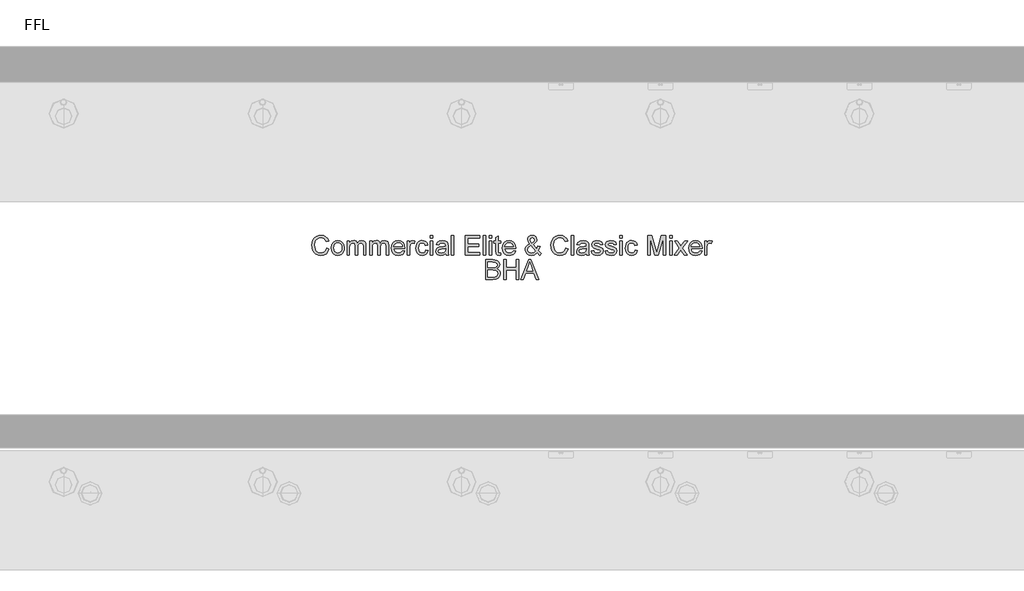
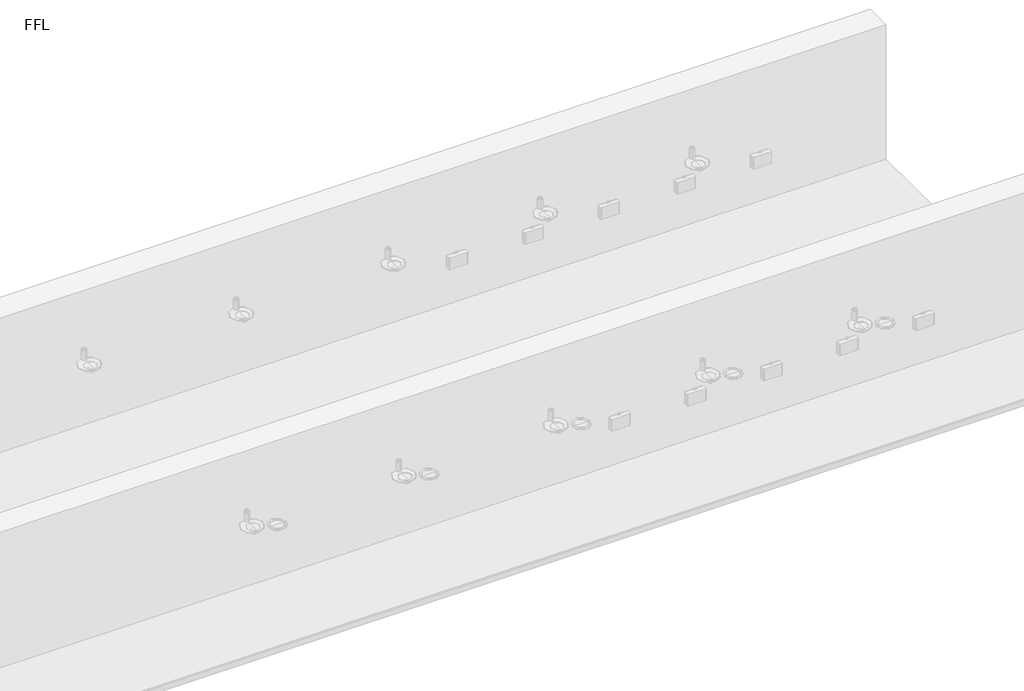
# One storey, part 8 of 13: 1 proxy.
"""IFC4 building model written with IfcOpenShell, lengths in millimetres."""

from ifc_helpers import new_model, si_unit, origin, origin_with_axes, place, context, project, spatial, polyline, outline, extrude, element, save

model = new_model("IFC4")

# Units and contexts
model_context = context("Model", 3, world=origin())
ifc_project = project(units=[si_unit("LENGTHUNIT", "METRE", prefix="MILLI")], contexts=[model_context])

# Site, building, storey
site = spatial("IfcSite", under=ifc_project)
building = spatial("IfcBuilding", under=site)
storey = spatial("IfcBuildingStorey", under=building, Name="FFL", Elevation=0.0)

# Proxy
placement = place(None, origin())
element("IfcBuildingElementProxy", 1, Name="150mm Arial", ObjectType="150mm Arial", at=placement, inside=storey, context=model_context, shape_type="SweptSolid", body=[
    extrude(outline(polyline([(14762.5723994, -1683.6981691), (14781.0339379, -1688.4577845), (14772.5153081, -1709.9707052), (14759.1469187, -1725.6873518), (14741.5868225, -1735.301234), (14720.4930725, -1738.5058614), (14699.0793105, -1736.0809816), (14682.0736014, -1728.8063422), (14669.0387456, -1716.934347), (14659.5375437, -1700.7173999), (14653.7367624, -1681.6518951), (14651.8031687, -1661.2342268), (14653.9891663, -1639.6987701), (14660.5471591, -1621.1020153), (14671.134599, -1606.0344071), (14685.4089379, -1595.0863903), (14702.3380244, -1588.4202244), (14720.8897071, -1586.1981691), (14741.1315941, -1589.0737701), (14757.8668706, -1597.700573), (14770.5726999, -1611.5467268), (14778.7262456, -1630.0803807), (14760.2647071, -1634.4794191), (14753.8644667, -1621.0163783), (14745.1204764, -1611.7811018), (14733.9245629, -1606.4400561), (14720.1685533, -1604.6597076), (14704.3121831, -1606.6338662), (14691.2863417, -1612.5563422), (14681.4020268, -1621.8051403), (14674.970236, -1633.7582653), (14670.2647071, -1661.1981691), (14675.8356206, -1693.0010537), (14682.9570148, -1704.8775561), (14693.1793706, -1713.3195633), (14705.4344788, -1718.3631331), (14718.6541302, -1720.044323), (14734.0642865, -1717.7546595), (14746.9053321, -1710.8856691), (14756.6003441, -1699.5094672), (14762.5723994, -1683.6981691)])), origin_with_axes(), (0.0, 0.0, 1.0), 5.0),
    extrude(outline(polyline([(14799.4954764, -1681.9673999), (14803.4888658, -1655.8165585), (14815.4690341, -1637.4361499), (14830.2707167, -1628.4307412), (14847.9930725, -1625.4289383), (14867.3876038, -1629.0842869), (14882.8788898, -1640.0503326), (14893.0336374, -1657.4616908), (14896.4185533, -1680.4529768), (14894.9221591, -1699.1038182), (14890.4329764, -1713.3015345), (14883.0817143, -1723.9340465), (14872.9990821, -1731.8892749), (14861.0234211, -1736.8517148), (14847.9930725, -1738.5058614), (14828.3641663, -1734.8640345), (14812.8909091, -1723.9385537), (14802.8443345, -1706.1621114), (14799.4954764, -1681.9673999)]), holes=[polyline([(14817.9570148, -1681.9313422), (14820.0934331, -1698.6395754), (14826.5026879, -1710.543121), (14836.1481206, -1717.6690225), (14847.9930725, -1720.044323), (14859.7839379, -1717.6555008), (14869.4113417, -1710.4890345), (14875.8205966, -1698.4277364), (14877.9570148, -1681.3544191), (14875.8070749, -1665.1329648), (14869.3572552, -1653.3916787), (14859.7163297, -1646.2657773), (14847.9930725, -1643.8904768), (14836.1481206, -1646.2567629), (14826.5026879, -1653.355621), (14820.0934331, -1665.2321234), (14817.9570148, -1681.9313422)])]), origin_with_axes(), (0.0, 0.0, 1.0), 5.0),
    extrude(outline(polyline([(14917.1877841, -1736.1981691), (14917.1877841, -1627.7366307), (14935.6493225, -1627.7366307), (14935.6493225, -1645.5851883), (14948.3416302, -1630.9637941), (14966.4065341, -1625.4289383), (14976.6739619, -1626.8396956), (14984.9041302, -1631.0719672), (14995.0723994, -1646.8832653), (15009.4774475, -1630.7925201), (15027.6685533, -1625.4289383), (15041.5462576, -1627.6600081), (15051.8091783, -1634.3532172), (15058.1508249, -1645.6888542), (15060.2647071, -1661.8472076), (15060.2647071, -1736.1981691), (15041.8031687, -1736.1981691), (15041.8031687, -1669.7798999), (15040.0904283, -1654.3652364), (15033.8885052, -1646.7750922), (15023.3416302, -1643.8904768), (15013.3401278, -1645.7384335), (15005.1865821, -1651.2823037), (14999.7644066, -1660.9006932), (14997.9570148, -1674.9722076), (14997.9570148, -1736.1981691), (14979.4954764, -1736.1981691), (14979.4954764, -1667.7246114), (14975.2226398, -1649.839996), (14969.5841182, -1645.3778566), (14961.2142264, -1643.8904768), (14947.548361, -1647.856823), (14938.4618225, -1659.4673999), (14935.6493225, -1681.4986499), (14935.6493225, -1736.1981691), (14917.1877841, -1736.1981691)])), origin_with_axes(), (0.0, 0.0, 1.0), 5.0),
    extrude(outline(polyline([(15087.9570148, -1736.1981691), (15087.9570148, -1627.7366307), (15106.4185533, -1627.7366307), (15106.4185533, -1645.5851883), (15119.110861, -1630.9637941), (15137.1757648, -1625.4289383), (15147.4431927, -1626.8396956), (15155.673361, -1631.0719672), (15165.8416302, -1646.8832653), (15180.2466783, -1630.7925201), (15198.4377841, -1625.4289383), (15212.3154884, -1627.6600081), (15222.5784091, -1634.3532172), (15228.9200557, -1645.6888542), (15231.0339379, -1661.8472076), (15231.0339379, -1736.1981691), (15212.5723994, -1736.1981691), (15212.5723994, -1669.7798999), (15210.8596591, -1654.3652364), (15204.657736, -1646.7750922), (15194.110861, -1643.8904768), (15184.1093586, -1645.7384335), (15175.9558129, -1651.2823037), (15170.5336374, -1660.9006932), (15168.7262456, -1674.9722076), (15168.7262456, -1736.1981691), (15150.2647071, -1736.1981691), (15150.2647071, -1667.7246114), (15145.9918706, -1649.839996), (15140.353349, -1645.3778566), (15131.9834571, -1643.8904768), (15118.3175917, -1647.856823), (15109.2310533, -1659.4673999), (15106.4185533, -1681.4986499), (15106.4185533, -1736.1981691), (15087.9570148, -1736.1981691)])), origin_with_axes(), (0.0, 0.0, 1.0), 5.0),
    extrude(outline(polyline([(15334.6637456, -1703.8904768), (15352.7647071, -1706.1981691), (15346.242772, -1719.8369912), (15335.8356206, -1730.0323037), (15321.7776278, -1736.387472), (15304.3031687, -1738.5058614), (15282.64151, -1734.8505129), (15265.9738417, -1723.8844672), (15255.3458369, -1706.3198638), (15251.8031687, -1682.8688422), (15255.3818946, -1658.6290585), (15266.1180725, -1640.5010537), (15282.5603802, -1629.1969672), (15303.2574956, -1625.4289383), (15323.3100797, -1629.1879528), (15339.3332167, -1640.464996), (15349.8395268, -1658.5569432), (15353.3416302, -1682.7606691), (15353.2334571, -1687.7366307), (15270.2647071, -1687.7366307), (15273.4603201, -1701.5557412), (15280.8836975, -1711.714996), (15291.5973393, -1717.9619912), (15304.6637456, -1720.044323), (15322.7647071, -1716.1861499), (15334.6637456, -1703.8904768)]), holes=[polyline([(15270.2647071, -1669.2750922), (15334.8800917, -1669.2750922), (15332.3830966, -1659.5214864), (15327.4882648, -1652.544323), (15316.7250437, -1646.0539383), (15303.1853802, -1643.8904768), (15290.7409691, -1645.6167388), (15280.4510052, -1650.7955249), (15273.2980605, -1658.8679408), (15270.2647071, -1669.2750922)])]), origin_with_axes(), (0.0, 0.0, 1.0), 5.0),
    extrude(outline(polyline([(15371.8031687, -1736.1981691), (15371.8031687, -1627.7366307), (15387.9570148, -1627.7366307), (15387.9570148, -1643.7823037), (15399.423361, -1628.9986499), (15410.9618225, -1625.4289383), (15429.4954764, -1631.1260537), (15423.329611, -1647.6765345), (15410.3488417, -1643.8904768), (15399.9101398, -1647.5323037), (15393.2574956, -1657.6284576), (15390.2647071, -1679.1909576), (15390.2647071, -1736.1981691), (15371.8031687, -1736.1981691)])), origin_with_axes(), (0.0, 0.0, 1.0), 5.0),
    extrude(outline(polyline([(15510.2647071, -1696.9673999), (15528.7262456, -1699.2750922), (15523.57901, -1715.6948638), (15513.9065341, -1728.1032172), (15500.6192744, -1735.9052004), (15484.6276879, -1738.5058614), (15464.9897672, -1734.8775561), (15449.6336975, -1723.9926403), (15439.7223393, -1706.3288783), (15436.4185533, -1682.3640345), (15442.0615821, -1651.6969672), (15449.1829764, -1640.1990706), (15459.2611014, -1631.9914383), (15471.3178922, -1627.0695633), (15484.3752841, -1625.4289383), (15499.9747432, -1627.6825441), (15512.4461975, -1634.4433614), (15521.3930124, -1645.3508133), (15526.4185533, -1660.044323), (15507.9570148, -1662.3520153), (15499.3933129, -1648.5238903), (15484.5195148, -1643.8904768), (15472.5889259, -1646.1711258), (15463.1192744, -1653.013073), (15456.9398874, -1664.7859095), (15454.8800917, -1681.8592268), (15456.8948153, -1699.1624119), (15462.938986, -1710.9758133), (15472.2373634, -1717.7771956), (15484.0147071, -1720.044323), (15493.5745028, -1718.6290585), (15501.4125437, -1714.3832653), (15507.1141663, -1707.1987701), (15510.2647071, -1696.9673999)])), origin_with_axes(), (0.0, 0.0, 1.0), 5.0),
    extrude(outline(polyline([(15544.8800917, -1606.9673999), (15544.8800917, -1588.5058614), (15563.3416302, -1588.5058614), (15563.3416302, -1606.9673999), (15544.8800917, -1606.9673999)])), origin_with_axes(), (0.0, 0.0, 1.0), 5.0),
    extrude(outline(polyline([(15544.8800917, -1736.1981691), (15544.8800917, -1627.7366307), (15563.3416302, -1627.7366307), (15563.3416302, -1736.1981691), (15544.8800917, -1736.1981691)])), origin_with_axes(), (0.0, 0.0, 1.0), 5.0),
    extrude(outline(polyline([(15660.2647071, -1722.3520153), (15642.3620629, -1734.8640345), (15622.5844187, -1738.5058614), (15607.1562336, -1736.3153566), (15595.7755244, -1729.7438422), (15588.7577961, -1719.7648758), (15586.4185533, -1707.3520153), (15589.9522071, -1692.7486499), (15599.2370629, -1682.1476883), (15612.1637456, -1676.089996), (15628.1373033, -1673.3135537), (15660.1565341, -1666.9673999), (15660.2647071, -1662.856823), (15658.9936735, -1654.6176403), (15655.1805725, -1649.2270153), (15646.6529283, -1645.2246114), (15634.7719187, -1643.8904768), (15616.0940341, -1647.4421595), (15607.1877841, -1660.044323), (15588.7262456, -1657.7366307), (15596.7130244, -1639.7077845), (15612.7947552, -1629.1428807), (15637.1517264, -1625.4289383), (15659.5255244, -1628.7101883), (15672.1637456, -1636.949371), (15677.8248033, -1649.4794191), (15678.7262456, -1665.6332653), (15678.7262456, -1688.6020153), (15679.6637456, -1720.6753326), (15683.3416302, -1736.1981691), (15664.8800917, -1736.1981691), (15660.2647071, -1722.3520153)]), holes=[polyline([(15660.2647071, -1685.4289383), (15630.4810533, -1691.089996), (15614.5976398, -1694.0827845), (15607.4041302, -1698.950573), (15604.8800917, -1706.0539383), (15610.3788898, -1716.0419191), (15626.5147071, -1720.044323), (15645.1925917, -1715.6272557), (15657.235861, -1704.9361499), (15660.1565341, -1690.6573037), (15660.2647071, -1685.4289383)])]), origin_with_axes(), (0.0, 0.0, 1.0), 5.0),
    extrude(outline(polyline([(15704.110861, -1736.1981691), (15704.110861, -1588.5058614), (15722.5723994, -1588.5058614), (15722.5723994, -1736.1981691), (15704.110861, -1736.1981691)])), origin_with_axes(), (0.0, 0.0, 1.0), 5.0),
    extrude(outline(polyline([(15810.2647071, -1736.1981691), (15810.2647071, -1588.5058614), (15916.4185533, -1588.5058614), (15916.4185533, -1606.9673999), (15828.7262456, -1606.9673999), (15828.7262456, -1650.8135537), (15911.8031687, -1650.8135537), (15911.8031687, -1669.2750922), (15828.7262456, -1669.2750922), (15828.7262456, -1717.7366307), (15918.7262456, -1717.7366307), (15918.7262456, -1736.1981691), (15810.2647071, -1736.1981691)])), origin_with_axes(), (0.0, 0.0, 1.0), 5.0),
    extrude(outline(polyline([(15944.110861, -1736.1981691), (15944.110861, -1588.5058614), (15962.5723994, -1588.5058614), (15962.5723994, -1736.1981691), (15944.110861, -1736.1981691)])), origin_with_axes(), (0.0, 0.0, 1.0), 5.0),
    extrude(outline(polyline([(15990.2647071, -1736.1981691), (15990.2647071, -1627.7366307), (16008.7262456, -1627.7366307), (16008.7262456, -1736.1981691), (15990.2647071, -1736.1981691)])), origin_with_axes(), (0.0, 0.0, 1.0), 5.0),
    extrude(outline(polyline([(15990.2647071, -1606.9673999), (15990.2647071, -1588.5058614), (16008.7262456, -1588.5058614), (16008.7262456, -1606.9673999), (15990.2647071, -1606.9673999)])), origin_with_axes(), (0.0, 0.0, 1.0), 5.0),
    extrude(outline(polyline([(16075.6493225, -1720.8015345), (16077.9570148, -1736.7390345), (16064.1469187, -1738.5058614), (16048.6781687, -1735.4409576), (16040.9618225, -1727.4000922), (16038.7262456, -1706.450573), (16038.7262456, -1646.1981691), (16024.8800917, -1646.1981691), (16024.8800917, -1627.7366307), (16038.7262456, -1627.7366307), (16038.7262456, -1601.3784576), (16057.1877841, -1590.5250922), (16057.1877841, -1627.7366307), (16075.6493225, -1627.7366307), (16075.6493225, -1646.1981691), (16057.1877841, -1646.1981691), (16057.1877841, -1705.9097076), (16058.1613417, -1715.4289383), (16061.3163898, -1718.8003326), (16067.6084571, -1720.044323), (16075.6493225, -1720.8015345)])), origin_with_axes(), (0.0, 0.0, 1.0), 5.0),
    extrude(outline(polyline([(16170.048361, -1703.8904768), (16188.1493225, -1706.1981691), (16181.6273874, -1719.8369912), (16171.220236, -1730.0323037), (16157.1622432, -1736.387472), (16139.6877841, -1738.5058614), (16118.0261254, -1734.8505129), (16101.3584571, -1723.8844672), (16090.7304523, -1706.3198638), (16087.1877841, -1682.8688422), (16090.76651, -1658.6290585), (16101.5026879, -1640.5010537), (16117.9449956, -1629.1969672), (16138.642111, -1625.4289383), (16158.6946951, -1629.1879528), (16174.7178321, -1640.464996), (16185.2241422, -1658.5569432), (16188.7262456, -1682.7606691), (16188.6180725, -1687.7366307), (16105.6493225, -1687.7366307), (16108.8449355, -1701.5557412), (16116.2683129, -1711.714996), (16126.9819547, -1717.9619912), (16140.048361, -1720.044323), (16158.1493225, -1716.1861499), (16170.048361, -1703.8904768)]), holes=[polyline([(16105.6493225, -1669.2750922), (16170.2647071, -1669.2750922), (16167.7677119, -1659.5214864), (16162.8728802, -1652.544323), (16152.1096591, -1646.0539383), (16138.5699956, -1643.8904768), (16126.1255845, -1645.6167388), (16115.8356206, -1650.7955249), (16108.6826759, -1658.8679408), (16105.6493225, -1669.2750922)])]), origin_with_axes(), (0.0, 0.0, 1.0), 5.0),
    extrude(outline(polyline([(16349.579611, -1717.9529768), (16330.0002841, -1733.3676403), (16307.1036494, -1738.5058614), (16286.7310533, -1734.7017749), (16271.0459571, -1723.2895153), (16262.9600196, -1710.1555008), (16260.2647071, -1695.5611499), (16262.4326759, -1682.6254528), (16268.9365821, -1671.0058614), (16279.7493826, -1660.7113903), (16294.8440341, -1651.7510537), (16281.9534091, -1633.0731691), (16278.7262456, -1619.2270153), (16281.2683129, -1606.7600682), (16288.8945148, -1596.0419191), (16300.3698754, -1588.6591066), (16314.4594187, -1586.1981691), (16327.8638658, -1588.5509335), (16338.5820148, -1595.6092268), (16345.6132648, -1605.9667989), (16347.9570148, -1618.2173999), (16346.2217384, -1628.5028566), (16341.0159091, -1638.013073), (16320.1925917, -1654.7077845), (16346.9113417, -1687.9890345), (16354.8800917, -1667.544323), (16373.3416302, -1671.5467268), (16360.2887456, -1701.9433614), (16382.5723994, -1724.2991307), (16368.7262456, -1738.5058614), (16349.579611, -1717.9529768)]), holes=[polyline([(16310.8536494, -1643.0611499), (16326.0339379, -1631.6128326), (16329.4954764, -1620.7414383), (16324.9341783, -1609.1488903), (16313.5219187, -1604.6597076), (16301.8572552, -1609.1128326), (16297.1877841, -1619.9842268), (16298.7743225, -1626.7450441), (16303.5699956, -1634.263073), (16310.8536494, -1643.0611499)]), polyline([(16337.2118225, -1704.6476883), (16304.2550917, -1663.5058614), (16283.9726398, -1678.9746114), (16278.7262456, -1693.1092268), (16280.5201158, -1701.8171595), (16285.9017264, -1710.8496114), (16294.5736014, -1717.7456451), (16306.2382648, -1720.044323), (16323.2034091, -1715.7534576), (16337.2118225, -1704.6476883)])]), origin_with_axes(), (0.0, 0.0, 1.0), 5.0),
    extrude(outline(polyline([(16564.8800917, -1683.6981691), (16583.3416302, -1688.4577845), (16574.8230004, -1709.9707052), (16561.454611, -1725.6873518), (16543.8945148, -1735.301234), (16522.8007648, -1738.5058614), (16501.3870028, -1736.0809816), (16484.3812937, -1728.8063422), (16471.3464379, -1716.934347), (16461.845236, -1700.7173999), (16456.0444547, -1681.6518951), (16454.110861, -1661.2342268), (16456.2968586, -1639.6987701), (16462.8548514, -1621.1020153), (16473.4422913, -1606.0344071), (16487.7166302, -1595.0863903), (16504.6457167, -1588.4202244), (16523.1973994, -1586.1981691), (16543.4392865, -1589.0737701), (16560.1745629, -1597.700573), (16572.8803922, -1611.5467268), (16581.0339379, -1630.0803807), (16562.5723994, -1634.4794191), (16556.1721591, -1621.0163783), (16547.4281687, -1611.7811018), (16536.2322552, -1606.4400561), (16522.4762456, -1604.6597076), (16506.6198754, -1606.6338662), (16493.5940341, -1612.5563422), (16483.7097191, -1621.8051403), (16477.2779283, -1633.7582653), (16472.5723994, -1661.1981691), (16478.1433129, -1693.0010537), (16485.2647071, -1704.8775561), (16495.4870629, -1713.3195633), (16507.7421711, -1718.3631331), (16520.9618225, -1720.044323), (16536.3719788, -1717.7546595), (16549.2130244, -1710.8856691), (16558.9080365, -1699.5094672), (16564.8800917, -1683.6981691)])), origin_with_axes(), (0.0, 0.0, 1.0), 5.0),
    extrude(outline(polyline([(16606.4185533, -1736.1981691), (16606.4185533, -1588.5058614), (16624.8800917, -1588.5058614), (16624.8800917, -1736.1981691), (16606.4185533, -1736.1981691)])), origin_with_axes(), (0.0, 0.0, 1.0), 5.0),
    extrude(outline(polyline([(16721.8031687, -1722.3520153), (16703.9005244, -1734.8640345), (16684.1228802, -1738.5058614), (16668.6946951, -1736.3153566), (16657.313986, -1729.7438422), (16650.2962576, -1719.7648758), (16647.9570148, -1707.3520153), (16651.4906687, -1692.7486499), (16660.7755244, -1682.1476883), (16673.7022071, -1676.089996), (16689.6757648, -1673.3135537), (16721.6949956, -1666.9673999), (16721.8031687, -1662.856823), (16720.532135, -1654.6176403), (16716.7190341, -1649.2270153), (16708.1913898, -1645.2246114), (16696.3103802, -1643.8904768), (16677.6324956, -1647.4421595), (16668.7262456, -1660.044323), (16650.2647071, -1657.7366307), (16658.251486, -1639.7077845), (16674.3332167, -1629.1428807), (16698.6901879, -1625.4289383), (16721.063986, -1628.7101883), (16733.7022071, -1636.949371), (16739.3632648, -1649.4794191), (16740.2647071, -1665.6332653), (16740.2647071, -1688.6020153), (16741.2022071, -1720.6753326), (16744.8800917, -1736.1981691), (16726.4185533, -1736.1981691), (16721.8031687, -1722.3520153)]), holes=[polyline([(16721.8031687, -1685.4289383), (16692.0195148, -1691.089996), (16676.1361014, -1694.0827845), (16668.9425917, -1698.950573), (16666.4185533, -1706.0539383), (16671.9173514, -1716.0419191), (16688.0531687, -1720.044323), (16706.7310533, -1715.6272557), (16718.7743225, -1704.9361499), (16721.6949956, -1690.6573037), (16721.8031687, -1685.4289383)])]), origin_with_axes(), (0.0, 0.0, 1.0), 5.0),
    extrude(outline(polyline([(16758.7262456, -1703.8904768), (16777.1877841, -1701.5827845), (16780.0994427, -1709.4794191), (16785.7334571, -1715.2847076), (16805.3127841, -1720.044323), (16824.1348994, -1715.6813422), (16830.2647071, -1705.4409576), (16824.0988417, -1697.1476883), (16805.0964379, -1691.8832653), (16777.2959571, -1682.8508133), (16765.1625437, -1672.3039383), (16761.0339379, -1657.4121114), (16764.3512456, -1643.6561018), (16773.4017264, -1633.1452845), (16785.1385052, -1627.6825441), (16801.0219187, -1625.4289383), (16823.485861, -1629.0527364), (16837.7647071, -1638.8604287), (16844.110861, -1655.4289383), (16825.6493225, -1657.7366307), (16818.7082167, -1647.5503326), (16802.4642264, -1643.8904768), (16784.7959571, -1647.388073), (16779.4954764, -1655.5371114), (16781.6949956, -1660.9097076), (16788.5820148, -1664.9842268), (16804.4834571, -1668.9145153), (16831.5808129, -1677.6044191), (16844.1649475, -1687.4481691), (16848.7262456, -1703.4938422), (16843.3716783, -1721.1621114), (16827.9209571, -1733.980621), (16805.0603802, -1738.5058614), (16786.4455966, -1736.324371), (16772.860861, -1729.7798999), (16763.7923514, -1718.9445633), (16758.7262456, -1703.8904768)])), origin_with_axes(), (0.0, 0.0, 1.0), 5.0),
    extrude(outline(polyline([(16862.5723994, -1703.8904768), (16881.0339379, -1701.5827845), (16883.9455966, -1709.4794191), (16889.579611, -1715.2847076), (16909.1589379, -1720.044323), (16927.9810533, -1715.6813422), (16934.110861, -1705.4409576), (16927.9449956, -1697.1476883), (16908.9425917, -1691.8832653), (16881.142111, -1682.8508133), (16869.0086975, -1672.3039383), (16864.8800917, -1657.4121114), (16868.1973994, -1643.6561018), (16877.2478802, -1633.1452845), (16888.9846591, -1627.6825441), (16904.8680725, -1625.4289383), (16927.3320148, -1629.0527364), (16941.610861, -1638.8604287), (16947.9570148, -1655.4289383), (16929.4954764, -1657.7366307), (16922.5543706, -1647.5503326), (16906.3103802, -1643.8904768), (16888.642111, -1647.388073), (16883.3416302, -1655.5371114), (16885.5411494, -1660.9097076), (16892.4281687, -1664.9842268), (16908.329611, -1668.9145153), (16935.4269667, -1677.6044191), (16948.0111014, -1687.4481691), (16952.5723994, -1703.4938422), (16947.2178321, -1721.1621114), (16931.767111, -1733.980621), (16908.9065341, -1738.5058614), (16890.2917504, -1736.324371), (16876.7070148, -1729.7798999), (16867.6385052, -1718.9445633), (16862.5723994, -1703.8904768)])), origin_with_axes(), (0.0, 0.0, 1.0), 5.0),
    extrude(outline(polyline([(16973.3416302, -1736.1981691), (16973.3416302, -1627.7366307), (16991.8031687, -1627.7366307), (16991.8031687, -1736.1981691), (16973.3416302, -1736.1981691)])), origin_with_axes(), (0.0, 0.0, 1.0), 5.0),
    extrude(outline(polyline([(16973.3416302, -1606.9673999), (16973.3416302, -1588.5058614), (16991.8031687, -1588.5058614), (16991.8031687, -1606.9673999), (16973.3416302, -1606.9673999)])), origin_with_axes(), (0.0, 0.0, 1.0), 5.0),
    extrude(outline(polyline([(17088.7262456, -1696.9673999), (17107.1877841, -1699.2750922), (17102.0405485, -1715.6948638), (17092.3680725, -1728.1032172), (17079.0808129, -1735.9052004), (17063.0892264, -1738.5058614), (17043.4513057, -1734.8775561), (17028.095236, -1723.9926403), (17018.1838778, -1706.3288783), (17014.8800917, -1682.3640345), (17020.5231206, -1651.6969672), (17027.6445148, -1640.1990706), (17037.7226398, -1631.9914383), (17049.7794307, -1627.0695633), (17062.8368225, -1625.4289383), (17078.4362816, -1627.6825441), (17090.907736, -1634.4433614), (17099.8545509, -1645.3508133), (17104.8800917, -1660.044323), (17086.4185533, -1662.3520153), (17077.8548514, -1648.5238903), (17062.9810533, -1643.8904768), (17051.0504643, -1646.1711258), (17041.5808129, -1653.013073), (17035.4014259, -1664.7859095), (17033.3416302, -1681.8592268), (17035.3563538, -1699.1624119), (17041.4005244, -1710.9758133), (17050.6989018, -1717.7771956), (17062.4762456, -1720.044323), (17072.0360413, -1718.6290585), (17079.8740821, -1714.3832653), (17085.5757047, -1707.1987701), (17088.7262456, -1696.9673999)])), origin_with_axes(), (0.0, 0.0, 1.0), 5.0),
    extrude(outline(polyline([(17183.3416302, -1736.1981691), (17183.3416302, -1588.5058614), (17215.1084571, -1588.5058614), (17245.3248033, -1692.6044191), (17251.4185533, -1714.3472076), (17258.017111, -1690.8015345), (17287.7286494, -1588.5058614), (17319.4954764, -1588.5058614), (17319.4954764, -1736.1981691), (17301.0339379, -1736.1981691), (17301.0339379, -1606.9673999), (17263.9305725, -1736.1981691), (17238.9065341, -1736.1981691), (17201.8031687, -1606.9673999), (17201.8031687, -1736.1981691), (17183.3416302, -1736.1981691)])), origin_with_axes(), (0.0, 0.0, 1.0), 5.0),
    extrude(outline(polyline([(17349.4954764, -1606.9673999), (17349.4954764, -1588.5058614), (17367.9570148, -1588.5058614), (17367.9570148, -1606.9673999), (17349.4954764, -1606.9673999)])), origin_with_axes(), (0.0, 0.0, 1.0), 5.0),
    extrude(outline(polyline([(17349.4954764, -1736.1981691), (17349.4954764, -1627.7366307), (17367.9570148, -1627.7366307), (17367.9570148, -1736.1981691), (17349.4954764, -1736.1981691)])), origin_with_axes(), (0.0, 0.0, 1.0), 5.0),
    extrude(outline(polyline([(17384.110861, -1736.1981691), (17423.5579764, -1681.6789383), (17386.4185533, -1627.7366307), (17408.6300917, -1627.7366307), (17426.5507648, -1653.6981691), (17434.9161494, -1665.9577845), (17442.1637456, -1655.933746), (17462.5723994, -1627.7366307), (17484.7839379, -1627.7366307), (17445.7695148, -1681.6789383), (17483.3416302, -1736.1981691), (17461.1300917, -1736.1981691), (17438.5219187, -1703.4217268), (17434.3752841, -1697.4361499), (17406.3223994, -1736.1981691), (17384.110861, -1736.1981691)])), origin_with_axes(), (0.0, 0.0, 1.0), 5.0),
    extrude(outline(polyline([(17575.4329764, -1703.8904768), (17593.5339379, -1706.1981691), (17587.0120028, -1719.8369912), (17576.6048514, -1730.0323037), (17562.5468586, -1736.387472), (17545.0723994, -1738.5058614), (17523.4107408, -1734.8505129), (17506.7430725, -1723.8844672), (17496.1150677, -1706.3198638), (17492.5723994, -1682.8688422), (17496.1511254, -1658.6290585), (17506.8873033, -1640.5010537), (17523.329611, -1629.1969672), (17544.0267264, -1625.4289383), (17564.0793105, -1629.1879528), (17580.1024475, -1640.464996), (17590.6087576, -1658.5569432), (17594.110861, -1682.7606691), (17594.0026879, -1687.7366307), (17511.0339379, -1687.7366307), (17514.2295509, -1701.5557412), (17521.6529283, -1711.714996), (17532.3665701, -1717.9619912), (17545.4329764, -1720.044323), (17563.5339379, -1716.1861499), (17575.4329764, -1703.8904768)]), holes=[polyline([(17511.0339379, -1669.2750922), (17575.6493225, -1669.2750922), (17573.1523273, -1659.5214864), (17568.2574956, -1652.544323), (17557.4942744, -1646.0539383), (17543.954611, -1643.8904768), (17531.5101999, -1645.6167388), (17521.220236, -1650.7955249), (17514.0672913, -1658.8679408), (17511.0339379, -1669.2750922)])]), origin_with_axes(), (0.0, 0.0, 1.0), 5.0),
    extrude(outline(polyline([(17612.5723994, -1736.1981691), (17612.5723994, -1627.7366307), (17628.7262456, -1627.7366307), (17628.7262456, -1643.7823037), (17640.1925917, -1628.9986499), (17651.7310533, -1625.4289383), (17670.2647071, -1631.1260537), (17664.0988417, -1647.6765345), (17651.1180725, -1643.8904768), (17640.6793706, -1647.5323037), (17634.0267264, -1657.6284576), (17631.0339379, -1679.1909576), (17631.0339379, -1736.1981691), (17612.5723994, -1736.1981691)])), origin_with_axes(), (0.0, 0.0, 1.0), 5.0),
    extrude(outline(polyline([(15961.4185533, -1918.5058614), (15961.4185533, -1770.8135537), (16017.7767264, -1770.8135537), (16045.3788898, -1775.1585057), (16054.6547312, -1780.6708254), (16061.6769667, -1788.5178807), (16067.5723994, -1807.4121114), (16062.6144667, -1824.6657172), (16047.6324956, -1837.7366307), (16058.0937336, -1843.199371), (16065.8236014, -1851.5106691), (16070.5967384, -1862.1206451), (16072.1877841, -1874.4794191), (16067.8428321, -1894.3291787), (16057.079611, -1908.4637941), (16041.0159091, -1915.9637941), (16017.3440341, -1918.5058614), (15961.4185533, -1918.5058614)]), holes=[polyline([(15979.8800917, -1830.8135537), (16013.5940341, -1830.8135537), (16033.2815341, -1829.2270153), (16045.126486, -1822.3940826), (16049.110861, -1810.3688422), (16045.3969187, -1798.325573), (16034.7598994, -1791.2041787), (16011.0339379, -1789.2750922), (15979.8800917, -1789.2750922), (15979.8800917, -1830.8135537)]), polyline([(15979.8800917, -1900.044323), (16017.7406687, -1900.044323), (16031.4425917, -1899.3231691), (16043.0351398, -1895.3027364), (16050.7154283, -1887.0996114), (16053.7262456, -1874.6597076), (16050.1925917, -1860.308746), (16038.7442744, -1851.7450441), (16015.9377841, -1849.2750922), (15979.8800917, -1849.2750922), (15979.8800917, -1900.044323)])]), origin_with_axes(), (0.0, 0.0, 1.0), 5.0),
    extrude(outline(polyline([(16097.5723994, -1918.5058614), (16097.5723994, -1770.8135537), (16116.0339379, -1770.8135537), (16116.0339379, -1830.8135537), (16194.4954764, -1830.8135537), (16194.4954764, -1770.8135537), (16212.9570148, -1770.8135537), (16212.9570148, -1918.5058614), (16194.4954764, -1918.5058614), (16194.4954764, -1849.2750922), (16116.0339379, -1849.2750922), (16116.0339379, -1918.5058614), (16097.5723994, -1918.5058614)])), origin_with_axes(), (0.0, 0.0, 1.0), 5.0),
    extrude(outline(polyline([(16228.0651879, -1918.5058614), (16287.0195148, -1770.8135537), (16302.7406687, -1770.8135537), (16361.6949956, -1918.5058614), (16342.1877841, -1918.5058614), (16325.2767264, -1872.3520153), (16264.4473994, -1872.3520153), (16247.5723994, -1918.5058614), (16228.0651879, -1918.5058614)]), holes=[polyline([(16271.2262456, -1853.8904768), (16318.5339379, -1853.8904768), (16305.2286494, -1817.5803807), (16294.8800917, -1789.2750922), (16285.6853802, -1814.4073037), (16271.2262456, -1853.8904768)])]), origin_with_axes(), (0.0, 0.0, 1.0), 5.0),
])

save(model, "model.ifc")
